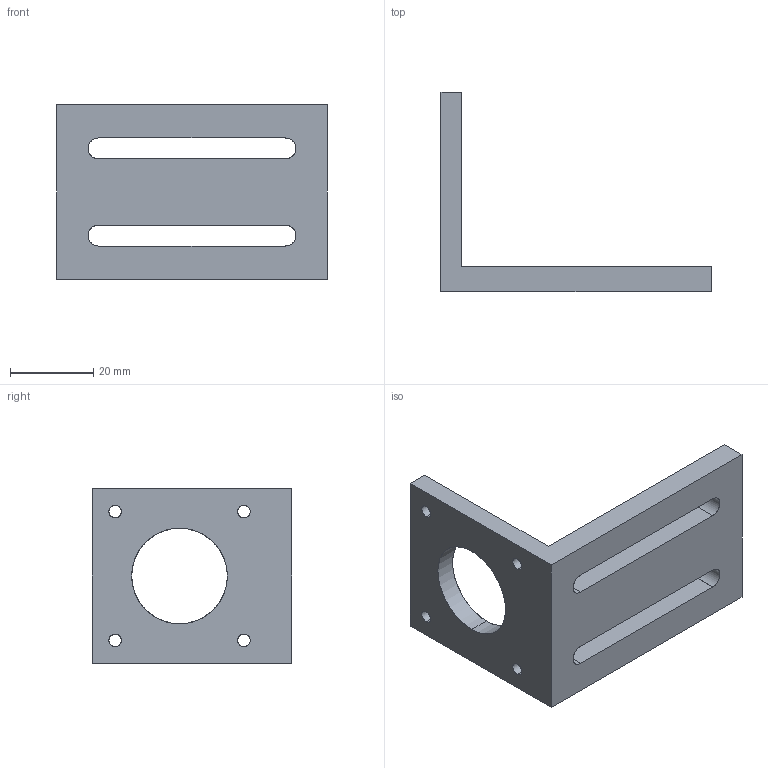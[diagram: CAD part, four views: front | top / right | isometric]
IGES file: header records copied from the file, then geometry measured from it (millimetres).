
Start section: SolidWorks IGES file using analytic representation for surfaces
Bounding box: 65 x 48 x 42 mm (x, y, z)
Surface area: 10644.5 mm2 (no closed solid volume)
Topology: 0 solids, 0 shells, 30 faces, 588 edges, 588 vertices
Faces by surface type: bspline 16, revolution 14
